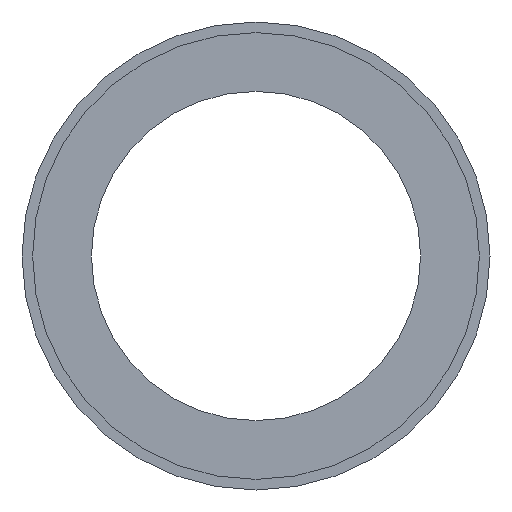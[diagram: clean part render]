
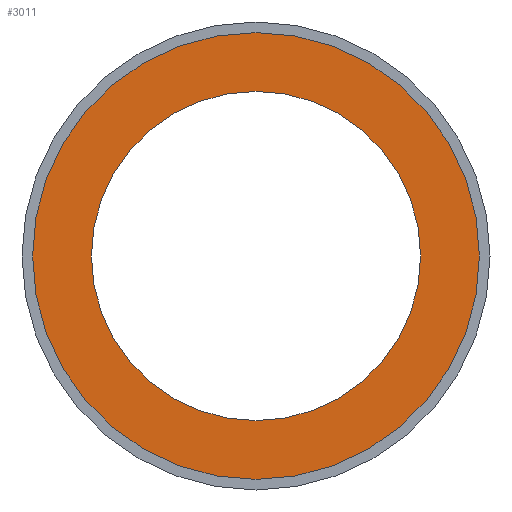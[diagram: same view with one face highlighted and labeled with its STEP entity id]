
A CAD part, front view. The second image highlights one B-rep face of the part: STEP entity #3011.
In plain terms, the highlighted planar face has unit normal (0, -1, 0).
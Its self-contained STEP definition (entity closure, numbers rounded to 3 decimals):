
#4 = AXIS2_PLACEMENT_3D ( 'NONE', #3546, #3857, #366 ) ;
#148 = CIRCLE ( 'NONE', #2339, 95. ) ;
#268 = CARTESIAN_POINT ( 'NONE',  ( 0., -27., -95. ) ) ;
#318 = EDGE_CURVE ( 'NONE', #1404, #1836, #1613, .T. ) ;
#366 = DIRECTION ( 'NONE',  ( 0., 0., 1. ) ) ;
#571 = CARTESIAN_POINT ( 'NONE',  ( 0., -27., -70. ) ) ;
#775 = DIRECTION ( 'NONE',  ( 0., 0., -1. ) ) ;
#816 = EDGE_CURVE ( 'NONE', #1836, #1404, #148, .T. ) ;
#839 = ORIENTED_EDGE ( 'NONE', *, *, #318, .T. ) ;
#885 = CIRCLE ( 'NONE', #3916, 70. ) ;
#982 = EDGE_LOOP ( 'NONE', ( #839, #4101 ) ) ;
#1048 = CIRCLE ( 'NONE', #1860, 70. ) ;
#1058 = DIRECTION ( 'NONE',  ( 0., -1., 0. ) ) ;
#1248 = FACE_BOUND ( 'NONE', #1597, .T. ) ;
#1404 = VERTEX_POINT ( 'NONE', #268 ) ;
#1464 = CARTESIAN_POINT ( 'NONE',  ( 0., -27., 95. ) ) ;
#1507 = DIRECTION ( 'NONE',  ( 0., -1., 0. ) ) ;
#1597 = EDGE_LOOP ( 'NONE', ( #3590, #3694 ) ) ;
#1613 = CIRCLE ( 'NONE', #3551, 95. ) ;
#1819 = DIRECTION ( 'NONE',  ( 0., 0., -1. ) ) ;
#1836 = VERTEX_POINT ( 'NONE', #1464 ) ;
#1845 = FACE_OUTER_BOUND ( 'NONE', #982, .T. ) ;
#1860 = AXIS2_PLACEMENT_3D ( 'NONE', #2767, #1507, #1819 ) ;
#1966 = EDGE_CURVE ( 'NONE', #3481, #2786, #885, .T. ) ;
#1970 = EDGE_CURVE ( 'NONE', #2786, #3481, #1048, .T. ) ;
#2072 = DIRECTION ( 'NONE',  ( 0., -1., 0. ) ) ;
#2339 = AXIS2_PLACEMENT_3D ( 'NONE', #3572, #1058, #2619 ) ;
#2362 = CARTESIAN_POINT ( 'NONE',  ( 0., -27., 0. ) ) ;
#2491 = DIRECTION ( 'NONE',  ( 0., -1., 0. ) ) ;
#2619 = DIRECTION ( 'NONE',  ( 0., 0., -1. ) ) ;
#2767 = CARTESIAN_POINT ( 'NONE',  ( 0., -27., 0. ) ) ;
#2786 = VERTEX_POINT ( 'NONE', #4012 ) ;
#3011 = ADVANCED_FACE ( 'NONE', ( #1248, #1845 ), #3571, .F. ) ;
#3390 = CARTESIAN_POINT ( 'NONE',  ( 0., -27., 0. ) ) ;
#3446 = DIRECTION ( 'NONE',  ( 0., 0., -1. ) ) ;
#3481 = VERTEX_POINT ( 'NONE', #571 ) ;
#3546 = CARTESIAN_POINT ( 'NONE',  ( 0., -27., 70. ) ) ;
#3551 = AXIS2_PLACEMENT_3D ( 'NONE', #2362, #2072, #775 ) ;
#3571 = PLANE ( 'NONE',  #4 ) ;
#3572 = CARTESIAN_POINT ( 'NONE',  ( 0., -27., 0. ) ) ;
#3590 = ORIENTED_EDGE ( 'NONE', *, *, #1966, .F. ) ;
#3694 = ORIENTED_EDGE ( 'NONE', *, *, #1970, .F. ) ;
#3857 = DIRECTION ( 'NONE',  ( 0., 1., 0. ) ) ;
#3916 = AXIS2_PLACEMENT_3D ( 'NONE', #3390, #2491, #3446 ) ;
#4012 = CARTESIAN_POINT ( 'NONE',  ( 0., -27., 70. ) ) ;
#4101 = ORIENTED_EDGE ( 'NONE', *, *, #816, .T. ) ;
